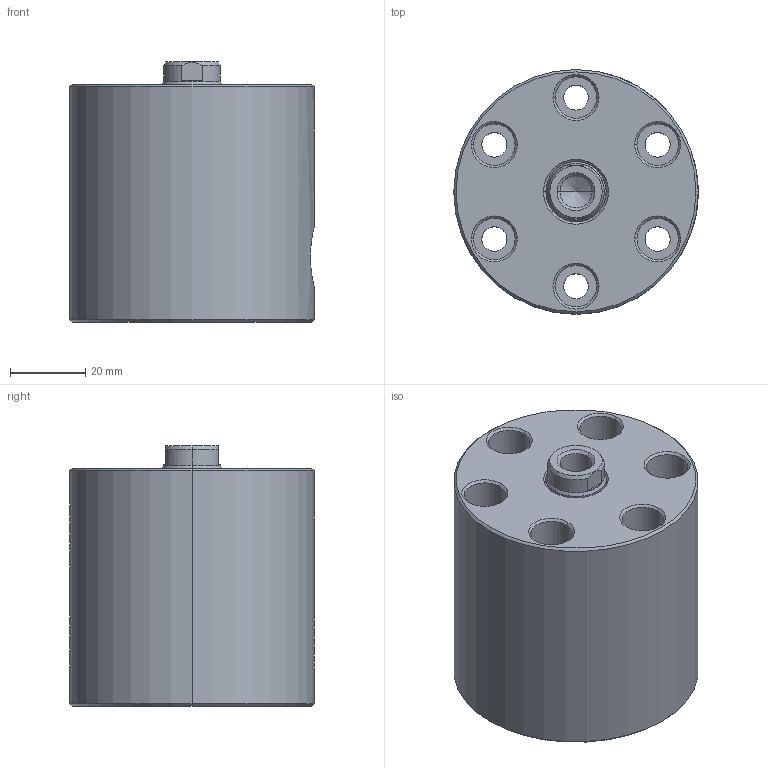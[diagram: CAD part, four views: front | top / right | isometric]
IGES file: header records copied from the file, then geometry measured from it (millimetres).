
Start section: SolidWorks IGES file using analytic representation for surfaces
Global section: file name: F:\COMPECT CYLINDER-STD\CO2C-6525.IGS; native system: SolidWorks 2019; preprocessor: SolidWorks 2019; author: ADMIN; date: 200708.124545; units: millimetre
Bounding box: 64.8 x 64.8 x 69 mm (x, y, z)
Volume: 182889.9 mm3; surface area: 34754.7 mm2
Topology: 2 solids, 2 shells, 125 faces, 269 edges, 159 vertices
Faces by surface type: revolution 102, plane 23
